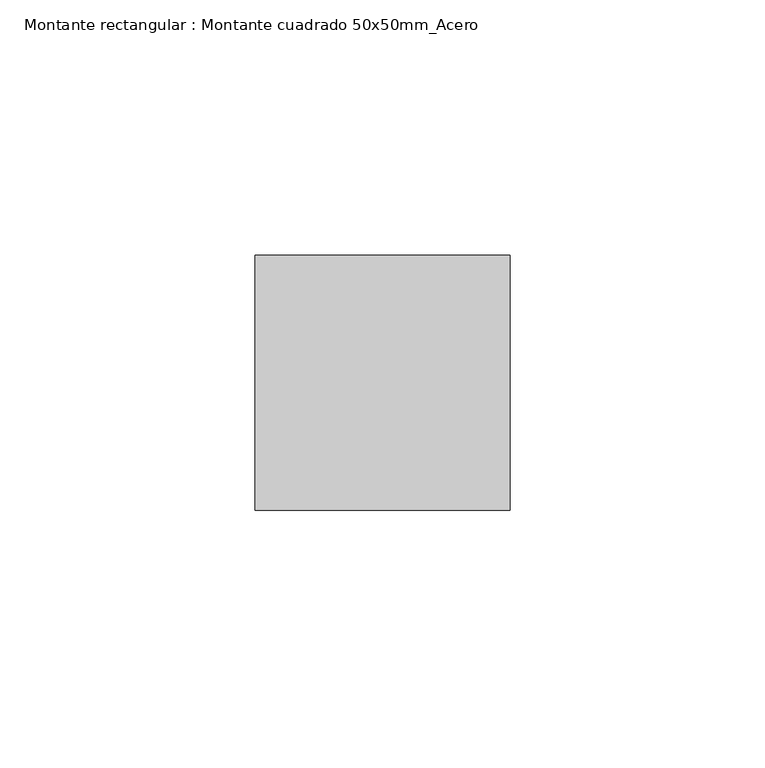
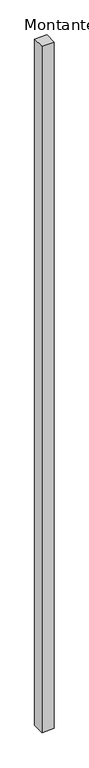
"""IFC4 building model written with IfcOpenShell, lengths in millimetres: member geometry, Montante rectangular : Montante cuadrado 50x50mm_Acero."""

from ifc_helpers import new_model, si_unit, frame, origin, place, context, project, spatial, polyline, outline, extrude, source, transform, mapped, element, save


def montante_rectangular_montante_cuadrado_50x50mm_acero_1ae98c7d(model_context):
    return source(origin(), model_context, "Body", "SweptSolid", [
        extrude(outline(polyline([(-50.0, 0.0), (-50.0, 50.0), (0.0, 50.0), (0.0, 0.0), (-50.0, 0.0)])), frame((0.0, 0.0, -2925.0), z_axis=(0.0, 0.0, 1.0), x_axis=(1.0, 0.0, 0.0)), (0.0, 0.0, 1.0), 2925.0),
    ])


if __name__ == "__main__":
    model = new_model("IFC4")
    model_context = context("Model", 3, world=origin())
    ifc_project = project(units=[si_unit("LENGTHUNIT", "METRE", prefix="MILLI")], contexts=[model_context])
    site = spatial("IfcSite", under=ifc_project)
    building = spatial("IfcBuilding", under=site)
    placement = place(None, origin())
    montante_rectangular_montante_cuadrado_50x50mm_acero_shape = montante_rectangular_montante_cuadrado_50x50mm_acero_1ae98c7d(model_context)
    element("IfcMember", 1, ObjectType="Montante rectangular : Montante cuadrado 50x50mm_Acero", at=placement, inside=building, context=model_context, shape_type="MappedRepresentation", body=[
        mapped(montante_rectangular_montante_cuadrado_50x50mm_acero_shape, transform((0.0, 0.0, 0.0), x_axis=(1.0, 0.0, 0.0), y_axis=(0.0, 1.0, 0.0), z_axis=(0.0, 0.0, 1.0))),
    ])
    save(model, "model.ifc")
